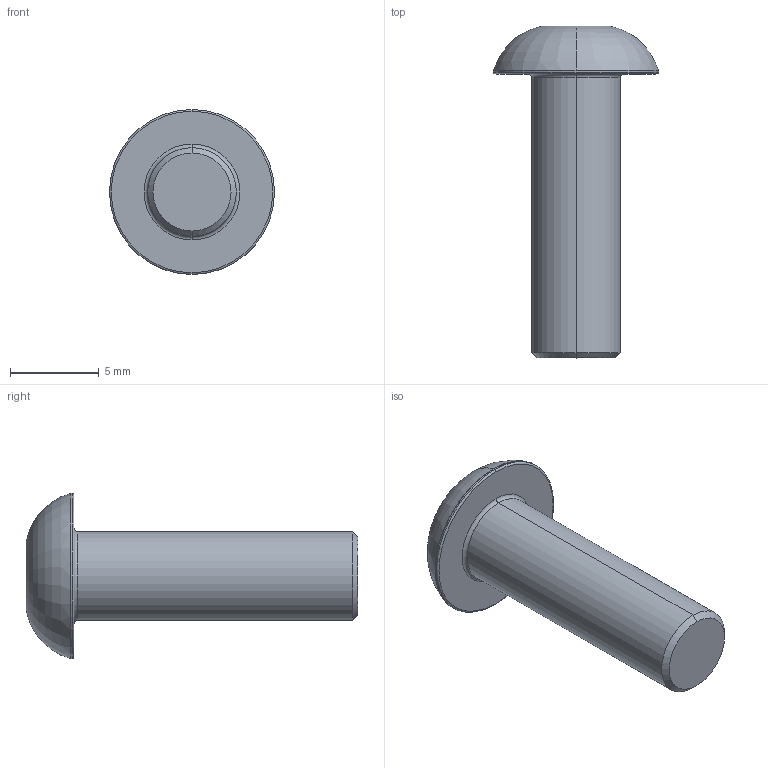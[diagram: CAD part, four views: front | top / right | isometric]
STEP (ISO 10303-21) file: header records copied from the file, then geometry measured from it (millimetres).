
FILE_DESCRIPTION (( 'STEP AP203' ), '1' );
FILE_NAME ('LGDD-TD-M5x16.STEP', '2026-08-14T01:36:44', ( '' ), ( '' ), 'SwSTEP 2.0', 'SolidWorks 2020', '' );
FILE_SCHEMA (( 'CONFIG_CONTROL_DESIGN' ));
Length unit declared in the file: millimetre
Products named in the file (1): LGDD-TD-M5x16
Bounding box: 9.3 x 18.7 x 9.3 mm (x, y, z)
Volume: 428 mm3; surface area: 439.8 mm2
Topology: 1 solids, 1 shells, 31 faces, 59 edges, 32 vertices
Faces by surface type: plane 10, cone 9, torus 8, cylinder 4
Entity records: 864 total; most frequent: CARTESIAN_POINT 154, DIRECTION 149, ORIENTED_EDGE 118, AXIS2_PLACEMENT_3D 65, EDGE_CURVE 59, CIRCLE 33, EDGE_LOOP 33, VERTEX_POINT 32
